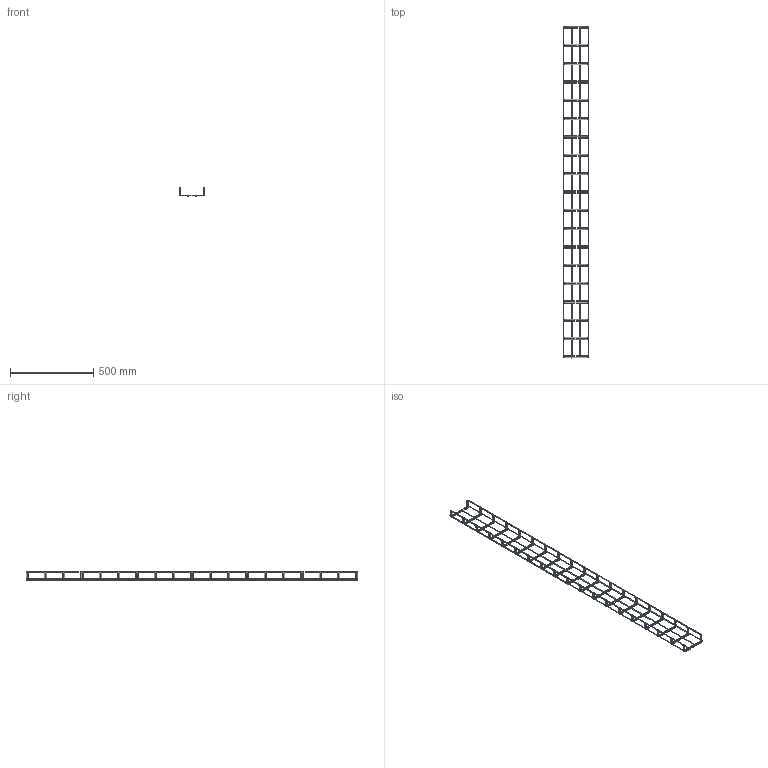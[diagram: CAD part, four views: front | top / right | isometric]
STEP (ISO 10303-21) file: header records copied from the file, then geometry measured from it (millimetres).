
FILE_DESCRIPTION(/* description */ (''),/* implementation_level */ '2;1');
FILE_NAME(/* name */ 'M2_150×050',/* time_stamp */ '2012-11-29T22:03:16+01:00',/* author */ (''),/* organization */ (''),/* preprocessor_version */ 'ST-DEVELOPER v10',/* originating_system */ '',/* authorisation */ '');
FILE_SCHEMA (('AUTOMOTIVE_DESIGN_CC2'));
Length unit declared in the file: millimetre
Products named in the file (1): 1
Bounding box: 154.19 x 1993.51 x 53.94 mm (x, y, z)
Surface area: 251577 mm2 (no closed solid volume)
Topology: 0 solids, 318 shells, 624 faces, 1848 edges, 1236 vertices
Faces by surface type: bspline 612, plane 12
Entity records: 52580 total; most frequent: CARTESIAN_POINT 40864, ORIENTED_EDGE 2460, EDGE_CURVE 1848, VERTEX_POINT 1236, B_SPLINE_CURVE_WITH_KNOTS 684, ADVANCED_FACE 624, FACE_OUTER_BOUND 624, EDGE_LOOP 624
